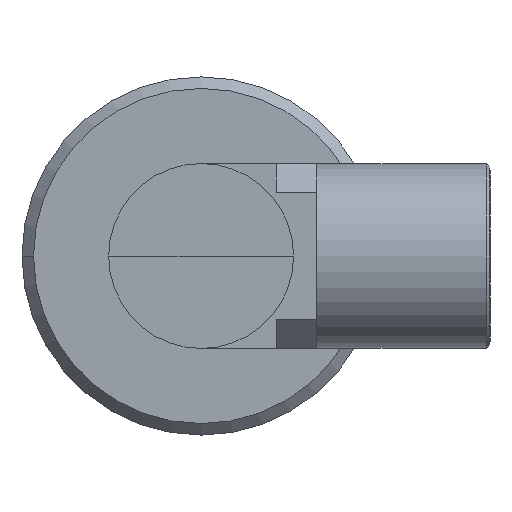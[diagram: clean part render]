
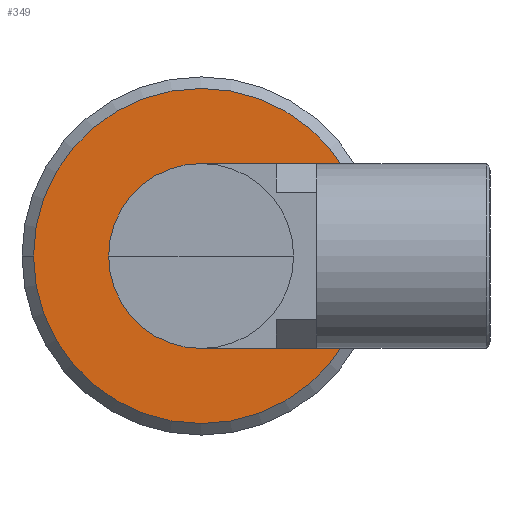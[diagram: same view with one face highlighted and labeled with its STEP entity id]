
A CAD part, left-side view. The second image highlights one B-rep face of the part: STEP entity #349.
In plain terms, the highlighted planar face has unit normal (-1, 0, 0).
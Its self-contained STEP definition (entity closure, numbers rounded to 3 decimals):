
#93 = DIRECTION ( 'NONE',  ( 0., 1., 0. ) ) ;
#103 = EDGE_CURVE ( 'NONE', #246, #665, #936, .T. ) ;
#112 = DIRECTION ( 'NONE',  ( 1., 0., 0. ) ) ;
#139 = CIRCLE ( 'NONE', #530, 8. ) ;
#142 = ORIENTED_EDGE ( 'NONE', *, *, #413, .F. ) ;
#246 = VERTEX_POINT ( 'NONE', #1275 ) ;
#266 = VERTEX_POINT ( 'NONE', #375 ) ;
#268 = CIRCLE ( 'NONE', #1332, 14.5 ) ;
#286 = ORIENTED_EDGE ( 'NONE', *, *, #103, .F. ) ;
#304 = CIRCLE ( 'NONE', #878, 8. ) ;
#330 = CARTESIAN_POINT ( 'NONE',  ( -24.026, -8., 0. ) ) ;
#343 = CARTESIAN_POINT ( 'NONE',  ( -24.026, 0., 0. ) ) ;
#349 = ADVANCED_FACE ( 'NONE', ( #1439, #1243 ), #809, .T. ) ;
#354 = DIRECTION ( 'NONE',  ( 0., 1., 0. ) ) ;
#375 = CARTESIAN_POINT ( 'NONE',  ( -24.026, 8., 0. ) ) ;
#413 = EDGE_CURVE ( 'NONE', #665, #246, #268, .T. ) ;
#450 = DIRECTION ( 'NONE',  ( 0., 1., 0. ) ) ;
#528 = AXIS2_PLACEMENT_3D ( 'NONE', #1036, #1373, #699 ) ;
#530 = AXIS2_PLACEMENT_3D ( 'NONE', #549, #112, #354 ) ;
#549 = CARTESIAN_POINT ( 'NONE',  ( -24.026, 0., 0. ) ) ;
#608 = ORIENTED_EDGE ( 'NONE', *, *, #1276, .T. ) ;
#665 = VERTEX_POINT ( 'NONE', #1431 ) ;
#686 = EDGE_LOOP ( 'NONE', ( #142, #286 ) ) ;
#699 = DIRECTION ( 'NONE',  ( 0., -1., 0. ) ) ;
#721 = EDGE_LOOP ( 'NONE', ( #1192, #608 ) ) ;
#809 = PLANE ( 'NONE',  #528 ) ;
#878 = AXIS2_PLACEMENT_3D ( 'NONE', #1236, #1215, #450 ) ;
#936 = CIRCLE ( 'NONE', #967, 14.5 ) ;
#967 = AXIS2_PLACEMENT_3D ( 'NONE', #343, #1129, #93 ) ;
#1036 = CARTESIAN_POINT ( 'NONE',  ( -24.026, 14.5, 0. ) ) ;
#1070 = DIRECTION ( 'NONE',  ( 1., 0., 0. ) ) ;
#1129 = DIRECTION ( 'NONE',  ( 1., 0., 0. ) ) ;
#1168 = CARTESIAN_POINT ( 'NONE',  ( -24.026, 0., 0. ) ) ;
#1192 = ORIENTED_EDGE ( 'NONE', *, *, #1369, .T. ) ;
#1215 = DIRECTION ( 'NONE',  ( 1., 0., 0. ) ) ;
#1236 = CARTESIAN_POINT ( 'NONE',  ( -24.026, 0., 0. ) ) ;
#1241 = VERTEX_POINT ( 'NONE', #330 ) ;
#1243 = FACE_OUTER_BOUND ( 'NONE', #686, .T. ) ;
#1275 = CARTESIAN_POINT ( 'NONE',  ( -24.026, -14.5, 0. ) ) ;
#1276 = EDGE_CURVE ( 'NONE', #1241, #266, #304, .T. ) ;
#1283 = DIRECTION ( 'NONE',  ( 0., 1., 0. ) ) ;
#1332 = AXIS2_PLACEMENT_3D ( 'NONE', #1168, #1070, #1283 ) ;
#1369 = EDGE_CURVE ( 'NONE', #266, #1241, #139, .T. ) ;
#1373 = DIRECTION ( 'NONE',  ( -1., 0., 0. ) ) ;
#1431 = CARTESIAN_POINT ( 'NONE',  ( -24.026, 14.5, 0. ) ) ;
#1439 = FACE_BOUND ( 'NONE', #721, .T. ) ;
